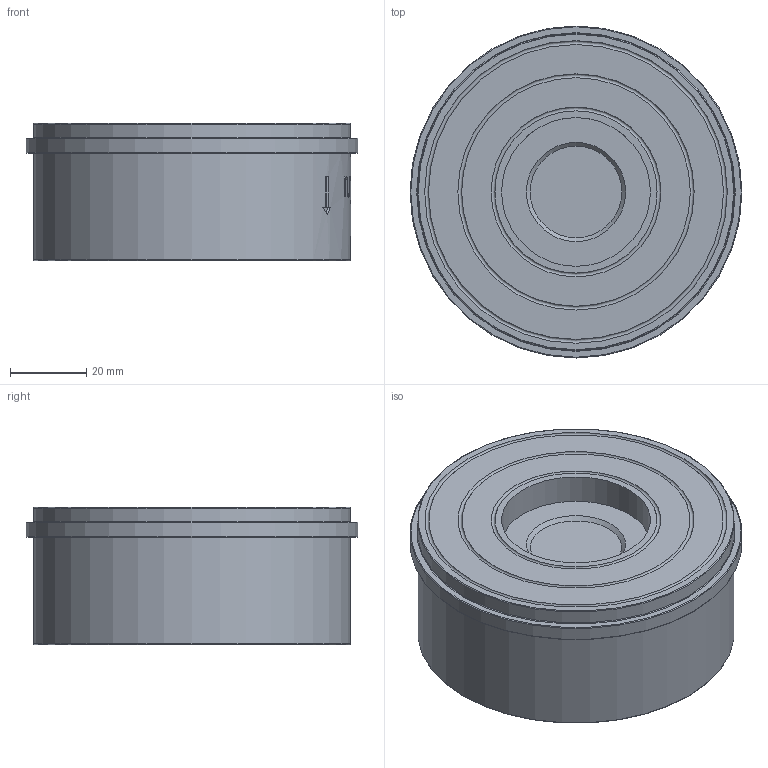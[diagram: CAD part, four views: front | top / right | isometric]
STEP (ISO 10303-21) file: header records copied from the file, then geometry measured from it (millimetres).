
FILE_DESCRIPTION(('STEP AP214'), '1');
FILE_NAME('VCS3232-Fb 孰囡囗 钺疣蝽 DN.ru 捏40 畜40', '', ('UNSPECIFIED'), ('UNSPECIFIED'), 'C3D Converter', 'C3D Toolkit', '');
FILE_SCHEMA(('AUTOMOTIVE_DESIGN { 1 0 10303 214 3 1 1}'));
Length unit declared in the file: millimetre
Products named in the file (1): VCS3232-Fb
Bounding box: 87 x 87 x 36 mm (x, y, z)
Volume: 82893.4 mm3; surface area: 45484.7 mm2
Topology: 2 solids, 2 shells, 140 faces, 339 edges, 222 vertices
Faces by surface type: plane 70, cylinder 30, extrusion 27, torus 11, bspline 1, cone 1
Full cylindrical faces by diameter (mm): 13 x1, 13.2 x1, 39 x1, 46.8 x1, 51.38 x1, 54.6 x1, 63 x1, 66.98 x1, 67 x1, 75.3 x1, 83.1 x2, 87 x1
Entity records: 8809 total; most frequent: CARTESIAN_POINT 4901, ORIENTED_EDGE 626, DIRECTION 600, EDGE_CURVE 313, AXIS2_PLACEMENT_3D 225, VERTEX_POINT 222, EDGE_LOOP 195, VECTOR 150
